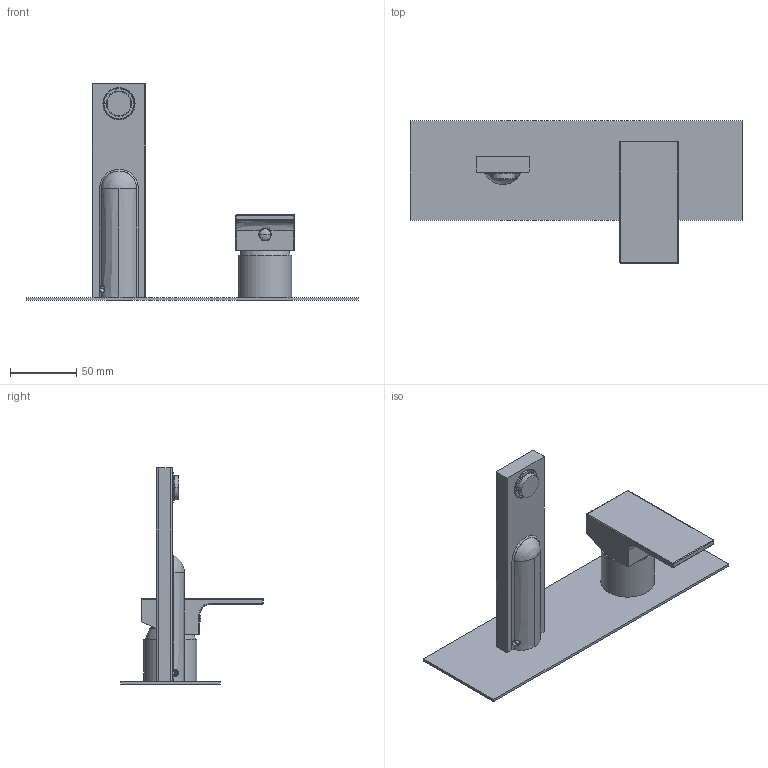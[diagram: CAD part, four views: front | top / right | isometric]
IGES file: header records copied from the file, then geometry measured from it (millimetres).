
Start section:  PTC IGES file: 35548B.igs
Global section: file name: 35548B.igs; native system: Creo Parametric by PTC Inc.; preprocessor: 2022014; author: carloff; organization: Unknown; date: 20260203.155901; units: millimetre
Bounding box: 250 x 107.5 x 163 mm (x, y, z)
Surface area: 110747.7 mm2 (no closed solid volume)
Topology: 0 solids, 0 shells, 900 faces, 5109 edges, 5100 vertices
Faces by surface type: revolution 521, bspline 379
